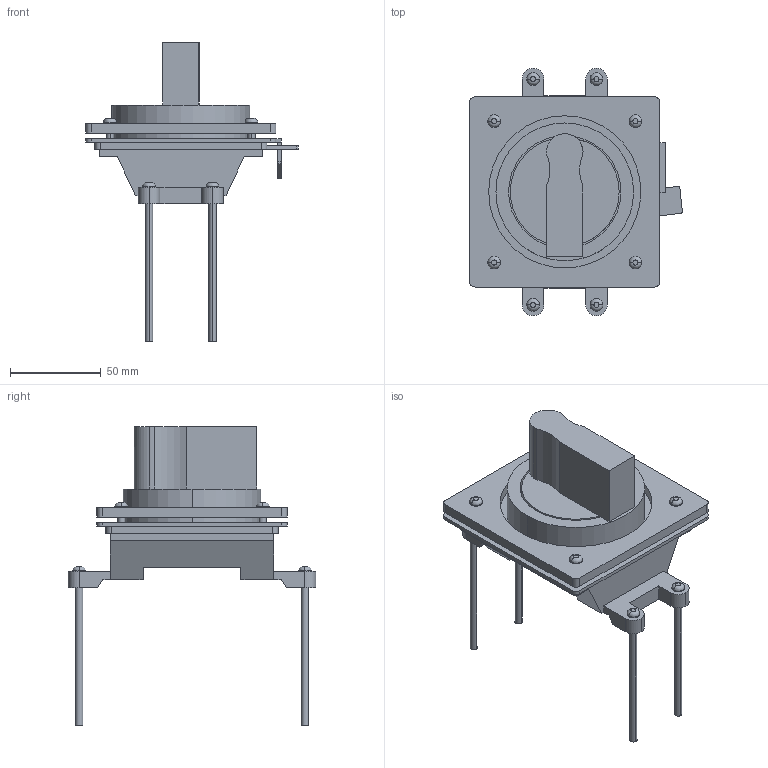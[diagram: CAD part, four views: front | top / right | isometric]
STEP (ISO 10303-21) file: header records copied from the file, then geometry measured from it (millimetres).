
FILE_DESCRIPTION( ( '' ), '1' );
FILE_NAME( 'E:/D&C電子外形図_3D/step/distribution/g-twin/breaker_accessory/handle/BW9N0GA.stp', '2012-10-19T07:45:10', ( '' ), ( '' ), ' ', ' ', ' ' );
FILE_SCHEMA( ( 'automotive_design' ) );
Length unit declared in the file: millimetre
Products named in the file (12): 1; 2; 3; 4; 5; 6; 7; 8; 9; 10; 11; 12
Bounding box: 117.4 x 136.6 x 165 mm (x, y, z)
Volume: 357610.8 mm3; surface area: 92446 mm2
Topology: 12 solids, 12 shells, 214 faces, 538 edges, 358 vertices
Faces by surface type: plane 106, cylinder 92, torus 16
Entity records: 13037 total; most frequent: DIRECTION 1236, STYLED_ITEM 1122, PRESENTATION_STYLE_ASSIGNMENT 1122, CARTESIAN_POINT 1122, COLOUR_RGB 1122, ORIENTED_EDGE 1076, EDGE_CURVE 538, CURVE_STYLE 538
